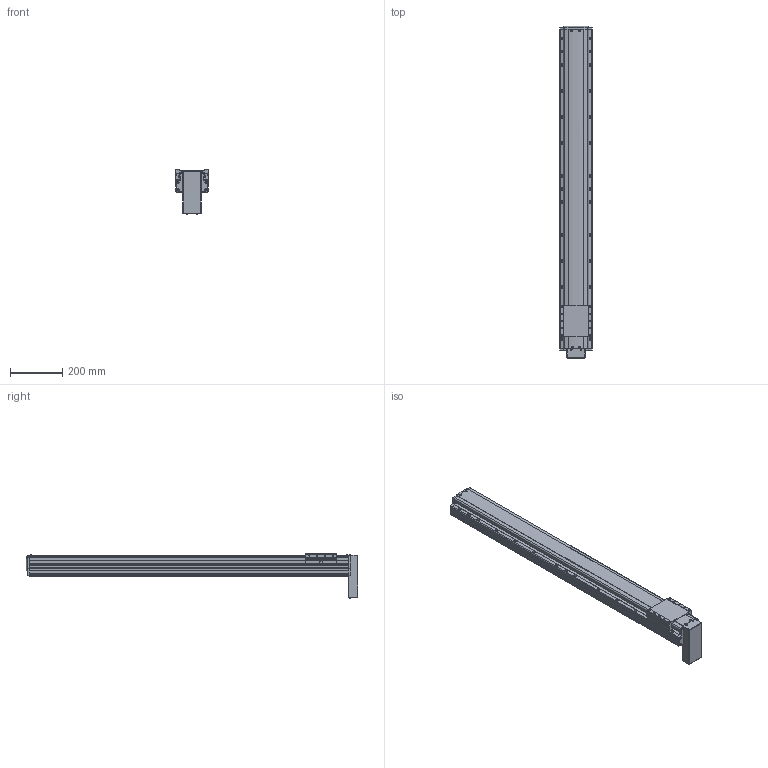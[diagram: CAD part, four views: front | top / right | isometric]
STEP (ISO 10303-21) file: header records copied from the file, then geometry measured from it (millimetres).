
FILE_DESCRIPTION(('STEP AP214'),'1');
FILE_NAME('Z:/Web/3D/PSA125/STP/PSA125-1000 (3D)/PSA125ㅁㅁ-1000PB.stp','2014-06-23T05:17:52',(' '),(' '),'Spatial InterOp 3D',' ',' ');
FILE_SCHEMA(('automotive_design'));
Length unit declared in the file: millimetre
Products named in the file (29): 스크루 : Round - M4.0 x 10.0; RRCV-PA120; SLIDE; BASE; FRCV-PA120-1(기준 뿔 제거); RR1500; 스크루 : Round - M4.0 x 6.0; 너트 : Square - M10.0 x 220.7419; 1; 2; 파트105; 스크루 : Round - M3.0 x 6.0
Bounding box: 125 x 1268.6 x 169.06 mm (x, y, z)
Volume: 10697550.8 mm3; surface area: 842956.1 mm2
Topology: 29 solids, 29 shells, 2210 faces, 5891 edges, 3736 vertices
Faces by surface type: plane 1148, cylinder 680, cone 266, sphere 52, torus 33, bspline 31
Entity records: 88272 total; most frequent: CARTESIAN_POINT 14633, DIRECTION 11784, ORIENTED_EDGE 11474, EDGE_CURVE 5737, AXIS2_PLACEMENT_3D 4031, VERTEX_POINT 3736, LINE 3722, VECTOR 3722
